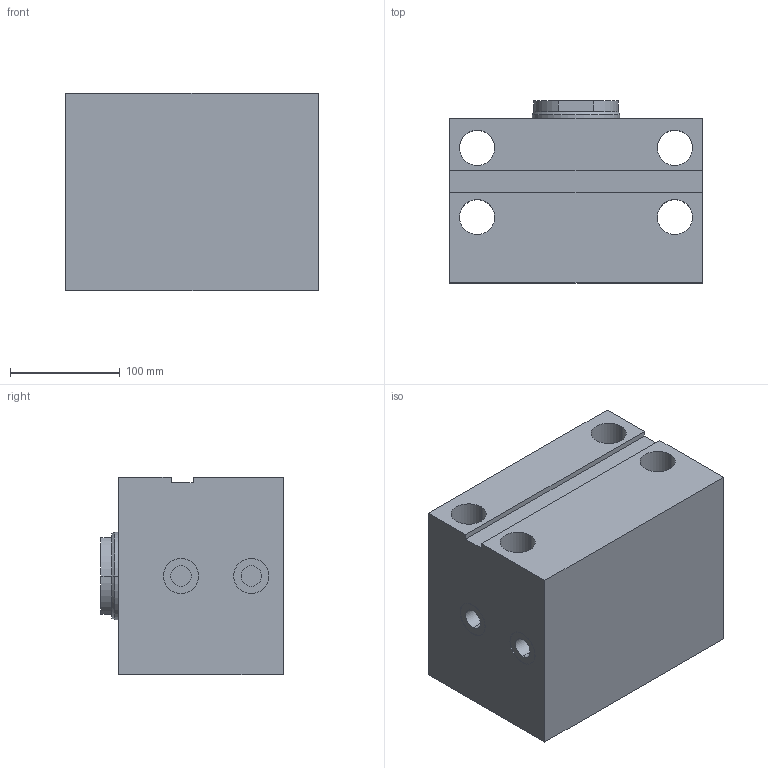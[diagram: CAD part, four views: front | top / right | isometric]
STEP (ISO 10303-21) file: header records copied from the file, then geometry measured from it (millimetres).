
FILE_DESCRIPTION (( 'STEP AP203' ), '1' );
FILE_NAME ('GERMA_Blockzylinder_601-125-040.STEP', '2015-10-09T16:47:48', ( '' ), ( '' ), 'SwSTEP 2.0', 'SolidWorks 2015', '' );
FILE_SCHEMA (( 'CONFIG_CONTROL_DESIGN' ));
Length unit declared in the file: millimetre
Products named in the file (3): GH-600-125_GH-601-125-040; Kolben 60x-125_Kolben DU.125-Hub40-IG; GERMA_Blockzylinder_601-125-040
Assembly tree (2 placements, depth 2):
  GERMA_Blockzylinder_601-125-040
    GH-600-125_GH-601-125-040
    Kolben 60x-125_Kolben DU.125-Hub40-IG
Bounding box: 230 x 166 x 180 mm (x, y, z)
Volume: 5252857.7 mm3; surface area: 406941.7 mm2
Topology: 2 solids, 2 shells, 77 faces, 172 edges, 106 vertices
Faces by surface type: cylinder 37, plane 26, cone 14
Entity records: 2434 total; most frequent: DIRECTION 415, CARTESIAN_POINT 354, ORIENTED_EDGE 332, AXIS2_PLACEMENT_3D 167, EDGE_CURVE 166, VERTEX_POINT 106, EDGE_LOOP 98, CIRCLE 85
